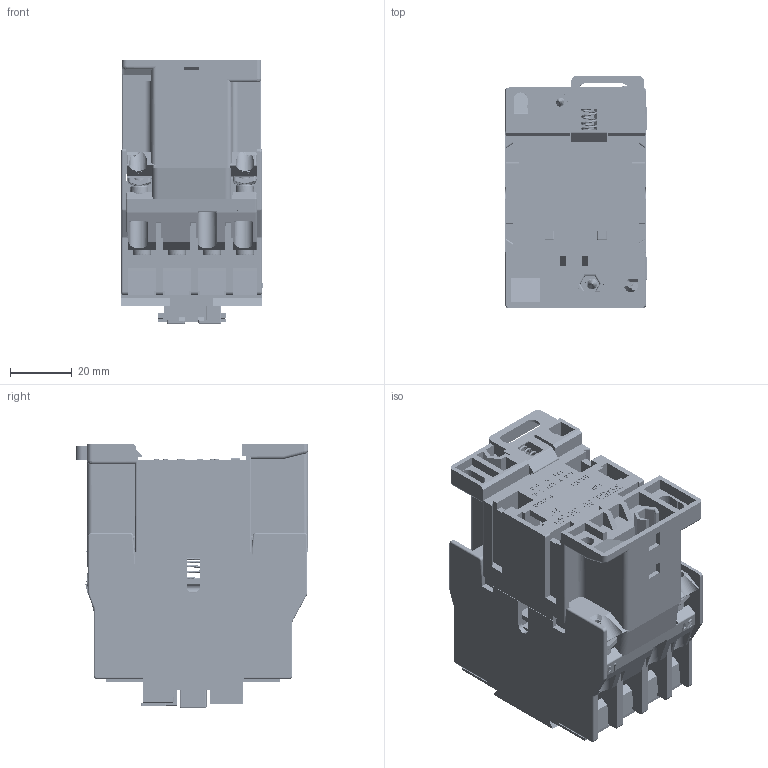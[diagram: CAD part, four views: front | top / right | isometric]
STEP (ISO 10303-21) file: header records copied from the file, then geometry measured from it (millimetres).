
FILE_DESCRIPTION((''),'2;1');
FILE_NAME('CJX2-1800_ASM','2023-07-21T17:13:56',('Administrator'),(''),'CREO PARAMETRIC BY PTC INC, 2020033','CREO PARAMETRIC BY PTC INC, 2020033','');
FILE_SCHEMA(('CONFIG_CONTROL_DESIGN'));
Products named in the file (19): CJX2-0900; CJX2-090004; CJX2-090006; CJX2-090005; M3_5X9_50002; 7_5X2_600; M3_5X9_50001_ASM; CJX2S-090034; CJX2-1800; ST3_5X160001; CJX2-181000; CJX2-182000; CJX2-09000; CJX2S-09_AF3; CJX2-1800_ASM
Assembly tree (29 placements, depth 3):
  CJX2-1800_ASM
    CJX2-0900
    CJX2-090004
    CJX2-090006
    CJX2-090005
    M3_5X9_50001_ASM  x11
      M3_5X9_50002
      7_5X2_600
    CJX2S-090034
    CJX2-1800
    CJX2-1800
    ST3_5X160001  x2
    CJX2-181000
    CJX2-182000
    CJX2-181000
    CJX2-182000
    CJX2-09000
    CJX2-0900
    CJX2S-09_AF3
Bounding box: 45.55 x 75 x 85.5 mm (x, y, z)
Volume: 161069 mm3; surface area: 98140.7 mm2
Topology: 38 solids, 38 shells, 5703 faces, 16173 edges, 10738 vertices
Faces by surface type: plane 4567, cylinder 742, bspline 251, torus 82, sphere 44, cone 17
Entity records: 158507 total; most frequent: CARTESIAN_POINT 38499, ORIENTED_EDGE 26092, DIRECTION 22519, EDGE_CURVE 13046, VECTOR 12021, LINE 12021, VERTEX_POINT 8611, AXIS2_PLACEMENT_3D 5249
